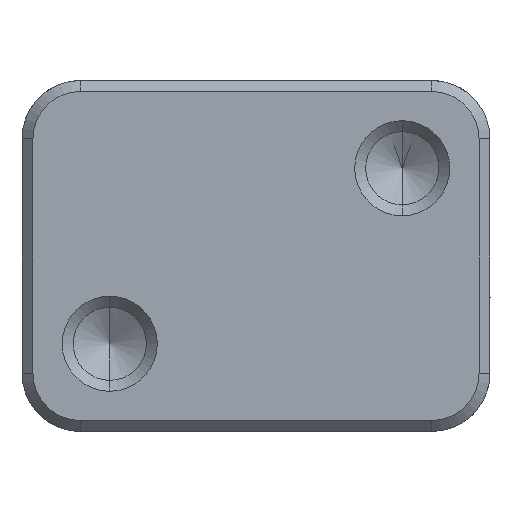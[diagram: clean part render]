
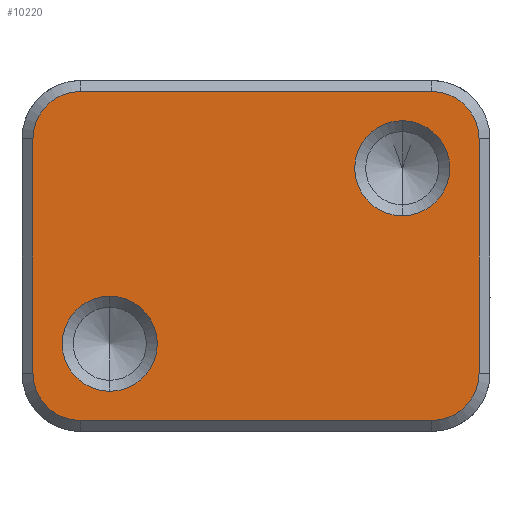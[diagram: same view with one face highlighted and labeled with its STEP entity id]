
A CAD part, front view. The second image highlights one B-rep face of the part: STEP entity #10220.
In plain terms, the highlighted planar face has unit normal (0, -1, 0).
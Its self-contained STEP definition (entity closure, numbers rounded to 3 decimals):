
#2 = VERTEX_POINT ( 'NONE', #12929 ) ;
#48 = EDGE_CURVE ( 'NONE', #13873, #2, #4059, .T. ) ;
#497 = ORIENTED_EDGE ( 'NONE', *, *, #6871, .T. ) ;
#523 = AXIS2_PLACEMENT_3D ( 'NONE', #11592, #12718, #7374 ) ;
#554 = DIRECTION ( 'NONE',  ( 0., 1., 0. ) ) ;
#807 = FACE_OUTER_BOUND ( 'NONE', #6336, .T. ) ;
#878 = FACE_BOUND ( 'NONE', #8224, .T. ) ;
#1162 = CIRCLE ( 'NONE', #13762, 3.25 ) ;
#1163 = AXIS2_PLACEMENT_3D ( 'NONE', #12384, #554, #2742 ) ;
#1165 = VERTEX_POINT ( 'NONE', #12657 ) ;
#1249 = DIRECTION ( 'NONE',  ( -1., 0., 0. ) ) ;
#1319 = EDGE_CURVE ( 'NONE', #9408, #7058, #12323, .T. ) ;
#1543 = CARTESIAN_POINT ( 'NONE',  ( 15.25, 0., -8.006 ) ) ;
#1638 = AXIS2_PLACEMENT_3D ( 'NONE', #2188, #6488, #2118 ) ;
#1819 = ORIENTED_EDGE ( 'NONE', *, *, #6941, .T. ) ;
#1891 = EDGE_LOOP ( 'NONE', ( #4662, #10358 ) ) ;
#2036 = VERTEX_POINT ( 'NONE', #2850 ) ;
#2118 = DIRECTION ( 'NONE',  ( 0., 0., -1. ) ) ;
#2188 = CARTESIAN_POINT ( 'NONE',  ( -10., 0., -6.006 ) ) ;
#2249 = DIRECTION ( 'NONE',  ( 0., 1., 0. ) ) ;
#2414 = CARTESIAN_POINT ( 'NONE',  ( 15.25, 0., -12.006 ) ) ;
#2742 = DIRECTION ( 'NONE',  ( 0., 0., -1. ) ) ;
#2850 = CARTESIAN_POINT ( 'NONE',  ( -15.25, 0., 7.995 ) ) ;
#3237 = DIRECTION ( 'NONE',  ( 0., 0., -1. ) ) ;
#3247 = DIRECTION ( 'NONE',  ( 0., 0., -1. ) ) ;
#3263 = LINE ( 'NONE', #13749, #8413 ) ;
#3891 = ORIENTED_EDGE ( 'NONE', *, *, #11008, .F. ) ;
#3979 = EDGE_CURVE ( 'NONE', #1165, #2036, #1162, .T. ) ;
#4010 = CARTESIAN_POINT ( 'NONE',  ( -15.25, 0., -8.006 ) ) ;
#4059 = CIRCLE ( 'NONE', #8792, 3.25 ) ;
#4159 = VERTEX_POINT ( 'NONE', #1543 ) ;
#4257 = ORIENTED_EDGE ( 'NONE', *, *, #9025, .T. ) ;
#4316 = CIRCLE ( 'NONE', #4967, 3.25 ) ;
#4323 = ORIENTED_EDGE ( 'NONE', *, *, #13570, .T. ) ;
#4367 = CARTESIAN_POINT ( 'NONE',  ( -10., 0., -6.006 ) ) ;
#4456 = CARTESIAN_POINT ( 'NONE',  ( 15.25, 0., 7.995 ) ) ;
#4593 = DIRECTION ( 'NONE',  ( 0., 0., 1. ) ) ;
#4662 = ORIENTED_EDGE ( 'NONE', *, *, #48, .T. ) ;
#4840 = CARTESIAN_POINT ( 'NONE',  ( 12., 0., 11.245 ) ) ;
#4896 = ORIENTED_EDGE ( 'NONE', *, *, #3979, .T. ) ;
#4967 = AXIS2_PLACEMENT_3D ( 'NONE', #5027, #10174, #9401 ) ;
#5027 = CARTESIAN_POINT ( 'NONE',  ( 12., 0., -8.006 ) ) ;
#5111 = PLANE ( 'NONE',  #523 ) ;
#5307 = LINE ( 'NONE', #12844, #5579 ) ;
#5442 = CIRCLE ( 'NONE', #8814, 3.25 ) ;
#5449 = DIRECTION ( 'NONE',  ( 0., 0., -1. ) ) ;
#5473 = ORIENTED_EDGE ( 'NONE', *, *, #1319, .F. ) ;
#5534 = CARTESIAN_POINT ( 'NONE',  ( -12., 0., -11.256 ) ) ;
#5579 = VECTOR ( 'NONE', #5449, 1000. ) ;
#5949 = CARTESIAN_POINT ( 'NONE',  ( -12., 0., 7.995 ) ) ;
#6330 = CIRCLE ( 'NONE', #1163, 3.25 ) ;
#6336 = EDGE_LOOP ( 'NONE', ( #11453, #5473, #3891, #13662, #9040, #497, #4323, #4896 ) ) ;
#6339 = EDGE_CURVE ( 'NONE', #4159, #10481, #4316, .T. ) ;
#6451 = CARTESIAN_POINT ( 'NONE',  ( -10., 0., -9.256 ) ) ;
#6488 = DIRECTION ( 'NONE',  ( 0., 1., 0. ) ) ;
#6540 = LINE ( 'NONE', #9708, #10076 ) ;
#6604 = CARTESIAN_POINT ( 'NONE',  ( -12., 0., -8.006 ) ) ;
#6744 = AXIS2_PLACEMENT_3D ( 'NONE', #8585, #12880, #3237 ) ;
#6828 = CIRCLE ( 'NONE', #1638, 3.25 ) ;
#6871 = EDGE_CURVE ( 'NONE', #7812, #9944, #5442, .T. ) ;
#6941 = EDGE_CURVE ( 'NONE', #10915, #11967, #6330, .T. ) ;
#7058 = VERTEX_POINT ( 'NONE', #4010 ) ;
#7374 = DIRECTION ( 'NONE',  ( 1., 0., 0. ) ) ;
#7593 = DIRECTION ( 'NONE',  ( 0., 1., 0. ) ) ;
#7751 = CARTESIAN_POINT ( 'NONE',  ( 10., 0., 9.245 ) ) ;
#7768 = DIRECTION ( 'NONE',  ( 0., -1., 0. ) ) ;
#7812 = VERTEX_POINT ( 'NONE', #4456 ) ;
#8224 = EDGE_LOOP ( 'NONE', ( #1819, #4257 ) ) ;
#8413 = VECTOR ( 'NONE', #11845, 1000. ) ;
#8585 = CARTESIAN_POINT ( 'NONE',  ( 10., 0., 5.995 ) ) ;
#8792 = AXIS2_PLACEMENT_3D ( 'NONE', #4367, #2249, #3247 ) ;
#8814 = AXIS2_PLACEMENT_3D ( 'NONE', #11918, #7768, #9872 ) ;
#8830 = LINE ( 'NONE', #2414, #10971 ) ;
#9025 = EDGE_CURVE ( 'NONE', #11967, #10915, #12164, .T. ) ;
#9040 = ORIENTED_EDGE ( 'NONE', *, *, #13483, .T. ) ;
#9270 = DIRECTION ( 'NONE',  ( 0., -1., 0. ) ) ;
#9401 = DIRECTION ( 'NONE',  ( 0., 0., 1. ) ) ;
#9408 = VERTEX_POINT ( 'NONE', #5534 ) ;
#9708 = CARTESIAN_POINT ( 'NONE',  ( -16., 0., 11.245 ) ) ;
#9872 = DIRECTION ( 'NONE',  ( 0., 0., 1. ) ) ;
#9944 = VERTEX_POINT ( 'NONE', #4840 ) ;
#10076 = VECTOR ( 'NONE', #1249, 1000. ) ;
#10174 = DIRECTION ( 'NONE',  ( 0., 1., 0. ) ) ;
#10220 = ADVANCED_FACE ( 'NONE', ( #12794, #807, #878 ), #5111, .T. ) ;
#10294 = CARTESIAN_POINT ( 'NONE',  ( 10., 0., 2.745 ) ) ;
#10358 = ORIENTED_EDGE ( 'NONE', *, *, #10700, .T. ) ;
#10481 = VERTEX_POINT ( 'NONE', #13323 ) ;
#10700 = EDGE_CURVE ( 'NONE', #2, #13873, #6828, .T. ) ;
#10915 = VERTEX_POINT ( 'NONE', #10294 ) ;
#10971 = VECTOR ( 'NONE', #4593, 1000. ) ;
#11008 = EDGE_CURVE ( 'NONE', #10481, #9408, #3263, .T. ) ;
#11206 = AXIS2_PLACEMENT_3D ( 'NONE', #6604, #7593, #11887 ) ;
#11453 = ORIENTED_EDGE ( 'NONE', *, *, #13326, .T. ) ;
#11592 = CARTESIAN_POINT ( 'NONE',  ( -16., 0., -12.006 ) ) ;
#11845 = DIRECTION ( 'NONE',  ( -1., 0., 0. ) ) ;
#11887 = DIRECTION ( 'NONE',  ( 0., 0., 1. ) ) ;
#11918 = CARTESIAN_POINT ( 'NONE',  ( 12., 0., 7.995 ) ) ;
#11967 = VERTEX_POINT ( 'NONE', #7751 ) ;
#12164 = CIRCLE ( 'NONE', #6744, 3.25 ) ;
#12323 = CIRCLE ( 'NONE', #11206, 3.25 ) ;
#12384 = CARTESIAN_POINT ( 'NONE',  ( 10., 0., 5.995 ) ) ;
#12424 = DIRECTION ( 'NONE',  ( -1., 0., 0. ) ) ;
#12657 = CARTESIAN_POINT ( 'NONE',  ( -12., 0., 11.245 ) ) ;
#12718 = DIRECTION ( 'NONE',  ( 0., -1., 0. ) ) ;
#12794 = FACE_BOUND ( 'NONE', #1891, .T. ) ;
#12844 = CARTESIAN_POINT ( 'NONE',  ( -15.25, 0., -12.006 ) ) ;
#12880 = DIRECTION ( 'NONE',  ( 0., 1., 0. ) ) ;
#12929 = CARTESIAN_POINT ( 'NONE',  ( -10., 0., -2.756 ) ) ;
#13323 = CARTESIAN_POINT ( 'NONE',  ( 12., 0., -11.256 ) ) ;
#13326 = EDGE_CURVE ( 'NONE', #2036, #7058, #5307, .T. ) ;
#13483 = EDGE_CURVE ( 'NONE', #4159, #7812, #8830, .T. ) ;
#13570 = EDGE_CURVE ( 'NONE', #9944, #1165, #6540, .T. ) ;
#13662 = ORIENTED_EDGE ( 'NONE', *, *, #6339, .F. ) ;
#13749 = CARTESIAN_POINT ( 'NONE',  ( -16., 0., -11.256 ) ) ;
#13762 = AXIS2_PLACEMENT_3D ( 'NONE', #5949, #9270, #12424 ) ;
#13873 = VERTEX_POINT ( 'NONE', #6451 ) ;
